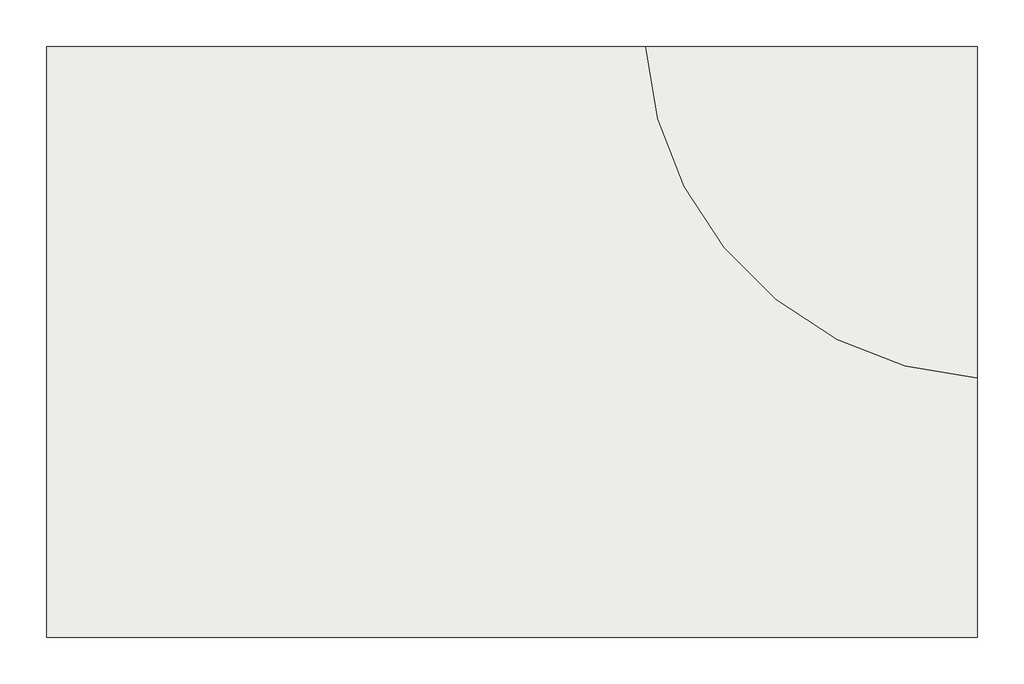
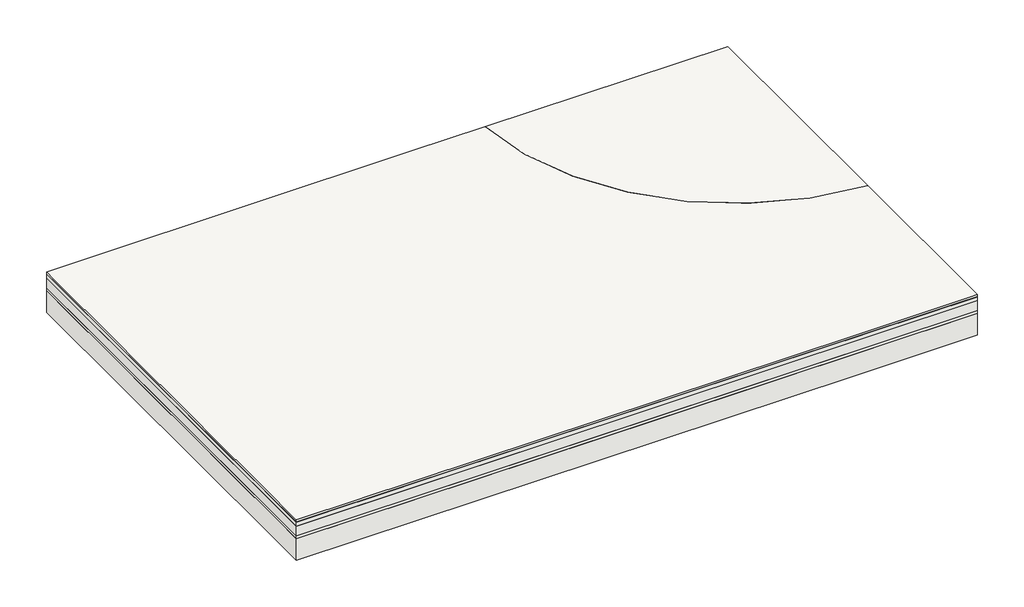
# One storey: 1 slab.
"""IFC4 building model written with IfcOpenShell, lengths in millimetres."""

from ifc_helpers import new_model, si_unit, point, frame, frame_2d, origin, place, context, project, spatial, polyline, circle_curve, trimmed, segment, composite_curve, outline, extrude, faceted_brep, element, save
from ifc_brep_helpers import plane_surface, revolved_surface, advanced_brep

model = new_model("IFC4")

# Units and contexts
model_context = context("Model", 3, world=origin())
ifc_project = project(units=[si_unit("LENGTHUNIT", "METRE", prefix="MILLI")], contexts=[model_context])

# Site, building, storey
site = spatial("IfcSite", under=ifc_project)
building = spatial("IfcBuilding", under=site)
storey = spatial("IfcBuildingStorey", under=building, Name="Этаж 2", Elevation=3000.0)

# Slab
placement = place(None, origin())
element("IfcSlab", 1, ObjectType="Пол по ж/б стяжке на бетонной плите 414мм (Изоляция ЭКОВЕР СТЭП ОПТИМА 100мм)", at=placement, inside=storey, context=model_context, shape_type="SolidModel", body=[
    extrude(outline(composite_curve([segment(polyline([(41114.7709945, 3961.7721519), (43457.721519, 3961.7721519), (43457.721519, 1618.8216274)]), True, "CONTINUOUS"), segment(trimmed(circle_curve(frame_2d((43610.121519, 4114.1721519)), 2500.0), [point((43457.721519, 1618.8216274))], [point((41114.7709945, 3961.7721519))], False, "CARTESIAN"), True, "CONTINUOUS")], self_intersect=False)), frame((0.0, 0.0, 2980.0), z_axis=(0.0, 0.0, 1.0), x_axis=(1.0, 0.0, 0.0)), (0.0, 0.0, 1.0), 20.0),
    advanced_brep(
    [(43457.721519, 1618.8216274, 2980.0), (41114.7709945, 3961.7721519, 2980.0), (41114.7709945, 3961.7721519, 3000.0), (43457.721519, 1618.8216274, 3000.0), (36877.721519, 3961.7721519, 2980.0), (40397.721519, 3961.7721519, 2980.0), (43457.721519, -218.2278481, 2980.0), (40397.721519, -218.2278481, 2980.0), (36877.721519, -218.2278481, 2980.0), (36877.721519, 3961.7721519, 3000.0), (36877.721519, 161.7721519, 3000.0), (36877.721519, -218.2278481, 3000.0), (40397.721519, -218.2278481, 3000.0), (42267.721519, -218.2278481, 3000.0), (43457.721519, -218.2278481, 3000.0), (40397.721519, 3961.7721519, 3000.0), (37257.721519, 3961.7721519, 3000.0)],
    [
        (0, 1, circle_curve(frame((43610.121519, 4114.1721519, 2980.0), z_axis=(0.0, 0.0, -1.0), x_axis=(0.0, -1.0, 0.0)), 2500.0)),
        (1, 2),
        (2, 3, circle_curve(frame((43610.121519, 4114.1721519, 3000.0), z_axis=(0.0, 0.0, 1.0), x_axis=(0.0, -1.0, 0.0)), 2500.0)),
        (3, 0),
        (4, 5),
        (5, 1),
        (0, 6),
        (6, 7),
        (7, 8),
        (8, 4),
        (9, 10),
        (10, 11),
        (11, 12),
        (12, 13),
        (13, 14),
        (14, 3),
        (2, 15),
        (15, 16),
        (16, 9),
        (4, 9),
        (14, 6),
        (11, 8),
    ],
    [
        revolved_surface(polyline([(43610.121519, 1614.1721519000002, 3000.0), (43610.121519, 1614.1721519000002, 2980.0)]), (43610.121519, 4114.1721519, 3304.8), (0.0, 0.0, 1.0)),
        plane_surface(frame((36877.721519, 3961.7721519, 2980.0), z_axis=(0.0, 0.0, -1.0), x_axis=(-1.0, 0.0, 0.0))),
        plane_surface(frame((36877.721519, 3961.7721519, 3000.0), z_axis=(0.0, 0.0, 1.0), x_axis=(-1.0, 0.0, 0.0))),
        plane_surface(frame((40397.721519, 3961.7721519, 2586.0), z_axis=(0.0, 1.0, 0.0), x_axis=(0.0, 0.0, 1.0))),
        plane_surface(frame((43457.721519, 3961.7721519, 2586.0), z_axis=(1.0, 0.0, 0.0), x_axis=(0.0, 0.0, 1.0))),
        plane_surface(frame((40397.721519, -218.2278481, 2586.0), z_axis=(0.0, -1.0, 0.0), x_axis=(0.0, 0.0, 1.0))),
        plane_surface(frame((36877.721519, -218.2278481, 2586.0), z_axis=(-1.0, 0.0, 0.0), x_axis=(0.0, 0.0, 1.0))),
    ],
    [
        (0, [[1, 2, 3, 4]]),
        (1, [[5, 6, -1, 7, 8, 9, 10]]),
        (2, [[11, 12, 13, 14, 15, 16, -3, 17, 18, 19]]),
        (3, [[-5, 20, -19, -18, -17, -2, -6]]),
        (4, [[21, -7, -4, -16]]),
        (5, [[-8, -21, -15, -14, -13, 22, -9]]),
        (6, [[-10, -22, -12, -11, -20]]),
    ],
),
    extrude(outline(composite_curve([segment(polyline([(41615.9364122, 3961.7721519), (43457.721519, 3961.7721519), (43457.721519, 2119.9870451)]), True, "CONTINUOUS"), segment(trimmed(circle_curve(frame_2d((43610.121519, 4114.1721519)), 2000.0), [point((43457.721519, 2119.9870451))], [point((41615.9364122, 3961.7721519))], False, "CARTESIAN"), True, "CONTINUOUS")], self_intersect=False)), frame((0.0, 0.0, 2936.0), z_axis=(0.0, 0.0, 1.0), x_axis=(1.0, 0.0, 0.0)), (0.0, 0.0, 1.0), 40.0),
    advanced_brep(
    [(43457.721519, 2119.9870451, 2936.0), (41615.9364122, 3961.7721519, 2936.0), (41615.9364122, 3961.7721519, 2976.0), (43457.721519, 2119.9870451, 2976.0), (36877.721519, 3961.7721519, 2936.0), (40397.721519, 3961.7721519, 2936.0), (43457.721519, -218.2278481, 2936.0), (40397.721519, -218.2278481, 2936.0), (36877.721519, -218.2278481, 2936.0), (36877.721519, 3961.7721519, 2976.0), (40397.721519, 3961.7721519, 2976.0), (43457.721519, -218.2278481, 2976.0), (40397.721519, -218.2278481, 2976.0), (36877.721519, -218.2278481, 2976.0)],
    [
        (0, 1, circle_curve(frame((43610.121519, 4114.1721519, 2936.0), z_axis=(0.0, 0.0, -1.0), x_axis=(0.0, -1.0, 0.0)), 2000.0)),
        (1, 2),
        (2, 3, circle_curve(frame((43610.121519, 4114.1721519, 2976.0), z_axis=(0.0, 0.0, 1.0), x_axis=(0.0, -1.0, 0.0)), 2000.0)),
        (3, 0),
        (4, 5),
        (5, 1),
        (0, 6),
        (6, 7),
        (7, 8),
        (8, 4),
        (4, 9),
        (9, 10),
        (10, 2),
        (11, 6),
        (3, 11),
        (11, 12),
        (12, 13),
        (13, 8),
        (13, 9),
    ],
    [
        revolved_surface(polyline([(43610.121519, 2114.1721519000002, 2976.0), (43610.121519, 2114.1721519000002, 2936.0)]), (43610.121519, 4114.1721519, 3280.8), (0.0, 0.0, 1.0)),
        plane_surface(frame((36877.721519, 3961.7721519, 2936.0), z_axis=(0.0, 0.0, -1.0), x_axis=(-1.0, 0.0, 0.0))),
        plane_surface(frame((40397.721519, 3961.7721519, 2586.0), z_axis=(0.0, 1.0, 0.0), x_axis=(0.0, 0.0, 1.0))),
        plane_surface(frame((43457.721519, 3961.7721519, 2586.0), z_axis=(1.0, 0.0, 0.0), x_axis=(0.0, 0.0, 1.0))),
        plane_surface(frame((40397.721519, -218.2278481, 2586.0), z_axis=(0.0, -1.0, 0.0), x_axis=(0.0, 0.0, 1.0))),
        plane_surface(frame((36877.721519, -218.2278481, 2586.0), z_axis=(-1.0, 0.0, 0.0), x_axis=(0.0, 0.0, 1.0))),
        plane_surface(frame((36877.721519, 3961.7721519, 2976.0), z_axis=(0.0, 0.0, 1.0), x_axis=(-1.0, 0.0, 0.0))),
    ],
    [
        (0, [[1, 2, 3, 4]]),
        (1, [[5, 6, -1, 7, 8, 9, 10]]),
        (2, [[-5, 11, 12, 13, -2, -6]]),
        (3, [[14, -7, -4, 15]]),
        (4, [[-8, -14, 16, 17, 18, -9]]),
        (5, [[-10, -18, 19, -11]]),
        (6, [[-12, -19, -17, -16, -15, -3, -13]]),
    ],
),
    faceted_brep([(43457.721519, 3961.7721519, 2586.0), (40397.721519, 3961.7721519, 2586.0), (37257.721519, 3961.7721519, 2586.0), (36877.721519, 3961.7721519, 2586.0), (36877.721519, 3961.7721519, 2806.0), (40397.721519, 3961.7721519, 2806.0), (43457.721519, 3961.7721519, 2806.0), (43457.721519, -218.2278481, 2586.0), (43457.721519, -218.2278481, 2806.0), (36877.721519, -218.2278481, 2586.0), (40397.721519, -218.2278481, 2586.0), (42267.721519, -218.2278481, 2586.0), (40397.721519, -218.2278481, 2806.0), (36877.721519, -218.2278481, 2806.0), (36877.721519, 161.7721519, 2586.0)], [[[0, 1, 2, 3, 4, 5, 6]], [[7, 0, 6, 8]], [[9, 10, 11, 7, 8, 12, 13]], [[14, 9, 13, 4, 3]], [[5, 4, 13, 12, 8, 6]], [[3, 2, 1, 0, 7, 11, 10, 9, 14]]]),
    extrude(outline(composite_curve([segment(polyline([(41816.5847226, 3961.7721519), (43457.721519, 3961.7721519), (43457.721519, 2320.6353555)]), True, "CONTINUOUS"), segment(trimmed(circle_curve(frame_2d((43610.121519, 4114.1721519)), 1800.0), [point((43457.721519, 2320.6353555))], [point((41816.5847226, 3961.7721519))], False, "CARTESIAN"), True, "CONTINUOUS")], self_intersect=False)), frame((0.0, 0.0, 2836.0), z_axis=(0.0, 0.0, 1.0), x_axis=(1.0, 0.0, 0.0)), (0.0, 0.0, 1.0), 100.0),
    advanced_brep(
    [(43457.721519, 2320.6353555, 2836.0), (41816.5847226, 3961.7721519, 2836.0), (41816.5847226, 3961.7721519, 2936.0), (43457.721519, 2320.6353555, 2936.0), (36877.721519, 3961.7721519, 2836.0), (40397.721519, 3961.7721519, 2836.0), (43457.721519, -218.2278481, 2836.0), (40397.721519, -218.2278481, 2836.0), (36877.721519, -218.2278481, 2836.0), (36877.721519, 3961.7721519, 2936.0), (40397.721519, 3961.7721519, 2936.0), (43457.721519, -218.2278481, 2936.0), (40397.721519, -218.2278481, 2936.0), (36877.721519, -218.2278481, 2936.0)],
    [
        (0, 1, circle_curve(frame((43610.121519, 4114.1721519, 2836.0), z_axis=(0.0, 0.0, -1.0), x_axis=(0.0, -1.0, 0.0)), 1800.0)),
        (1, 2),
        (2, 3, circle_curve(frame((43610.121519, 4114.1721519, 2936.0), z_axis=(0.0, 0.0, 1.0), x_axis=(0.0, -1.0, 0.0)), 1800.0)),
        (3, 0),
        (4, 5),
        (5, 1),
        (0, 6),
        (6, 7),
        (7, 8),
        (8, 4),
        (4, 9),
        (9, 10),
        (10, 2),
        (11, 6),
        (3, 11),
        (11, 12),
        (12, 13),
        (13, 8),
        (13, 9),
    ],
    [
        revolved_surface(polyline([(43610.121519, 2314.1721519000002, 2936.0), (43610.121519, 2314.1721519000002, 2836.0)]), (43610.121519, 4114.1721519, 3240.8), (0.0, 0.0, 1.0)),
        plane_surface(frame((36877.721519, 3961.7721519, 2836.0), z_axis=(0.0, 0.0, -1.0), x_axis=(-1.0, 0.0, 0.0))),
        plane_surface(frame((40397.721519, 3961.7721519, 2586.0), z_axis=(0.0, 1.0, 0.0), x_axis=(0.0, 0.0, 1.0))),
        plane_surface(frame((43457.721519, 3961.7721519, 2586.0), z_axis=(1.0, 0.0, 0.0), x_axis=(0.0, 0.0, 1.0))),
        plane_surface(frame((40397.721519, -218.2278481, 2586.0), z_axis=(0.0, -1.0, 0.0), x_axis=(0.0, 0.0, 1.0))),
        plane_surface(frame((36877.721519, -218.2278481, 2586.0), z_axis=(-1.0, 0.0, 0.0), x_axis=(0.0, 0.0, 1.0))),
        plane_surface(frame((36877.721519, 3961.7721519, 2936.0), z_axis=(0.0, 0.0, 1.0), x_axis=(-1.0, 0.0, 0.0))),
    ],
    [
        (0, [[1, 2, 3, 4]]),
        (1, [[5, 6, -1, 7, 8, 9, 10]]),
        (2, [[-5, 11, 12, 13, -2, -6]]),
        (3, [[14, -7, -4, 15]]),
        (4, [[-8, -14, 16, 17, 18, -9]]),
        (5, [[-10, -18, 19, -11]]),
        (6, [[-12, -19, -17, -16, -15, -3, -13]]),
    ],
),
    extrude(outline(composite_curve([segment(polyline([(42276.4004087, 3961.7721519), (43457.721519, 3961.7721519), (43457.721519, 2780.4510416)]), True, "CONTINUOUS"), segment(trimmed(circle_curve(frame_2d((43610.121519, 4114.1721519)), 1342.4), [point((43457.721519, 2780.4510416))], [point((42276.4004087, 3961.7721519))], False, "CARTESIAN"), True, "CONTINUOUS")], self_intersect=False)), frame((0.0, 0.0, 2806.0), z_axis=(0.0, 0.0, 1.0), x_axis=(1.0, 0.0, 0.0)), (0.0, 0.0, 1.0), 30.0),
    advanced_brep(
    [(43457.721519, 2780.4510416, 2806.0), (42276.4004087, 3961.7721519, 2806.0), (42276.4004087, 3961.7721519, 2836.0), (43457.721519, 2780.4510416, 2836.0), (36877.721519, 3961.7721519, 2806.0), (40397.721519, 3961.7721519, 2806.0), (43457.721519, -218.2278481, 2806.0), (40397.721519, -218.2278481, 2806.0), (36877.721519, -218.2278481, 2806.0), (36877.721519, 3961.7721519, 2836.0), (40397.721519, 3961.7721519, 2836.0), (43457.721519, -218.2278481, 2836.0), (40397.721519, -218.2278481, 2836.0), (36877.721519, -218.2278481, 2836.0)],
    [
        (0, 1, circle_curve(frame((43610.121519, 4114.1721519, 2806.0), z_axis=(0.0, 0.0, -1.0), x_axis=(0.0, -1.0, 0.0)), 1342.4)),
        (1, 2),
        (2, 3, circle_curve(frame((43610.121519, 4114.1721519, 2836.0), z_axis=(0.0, 0.0, 1.0), x_axis=(0.0, -1.0, 0.0)), 1342.4)),
        (3, 0),
        (4, 5),
        (5, 1),
        (0, 6),
        (6, 7),
        (7, 8),
        (8, 4),
        (4, 9),
        (9, 10),
        (10, 2),
        (11, 6),
        (3, 11),
        (11, 12),
        (12, 13),
        (13, 8),
        (13, 9),
    ],
    [
        revolved_surface(polyline([(43610.121519, 2771.7721519, 2836.0), (43610.121519, 2771.7721519, 2806.0)]), (43610.121519, 4114.1721519, 3140.8), (0.0, 0.0, 1.0)),
        plane_surface(frame((36877.721519, 3961.7721519, 2806.0), z_axis=(0.0, 0.0, -1.0), x_axis=(-1.0, 0.0, 0.0))),
        plane_surface(frame((40397.721519, 3961.7721519, 2586.0), z_axis=(0.0, 1.0, 0.0), x_axis=(0.0, 0.0, 1.0))),
        plane_surface(frame((43457.721519, 3961.7721519, 2586.0), z_axis=(1.0, 0.0, 0.0), x_axis=(0.0, 0.0, 1.0))),
        plane_surface(frame((40397.721519, -218.2278481, 2586.0), z_axis=(0.0, -1.0, 0.0), x_axis=(0.0, 0.0, 1.0))),
        plane_surface(frame((36877.721519, -218.2278481, 2586.0), z_axis=(-1.0, 0.0, 0.0), x_axis=(0.0, 0.0, 1.0))),
        plane_surface(frame((36877.721519, 3961.7721519, 2836.0), z_axis=(0.0, 0.0, 1.0), x_axis=(-1.0, 0.0, 0.0))),
    ],
    [
        (0, [[1, 2, 3, 4]]),
        (1, [[5, 6, -1, 7, 8, 9, 10]]),
        (2, [[-5, 11, 12, 13, -2, -6]]),
        (3, [[14, -7, -4, 15]]),
        (4, [[-8, -14, 16, 17, 18, -9]]),
        (5, [[-10, -18, 19, -11]]),
        (6, [[-12, -19, -17, -16, -15, -3, -13]]),
    ],
),
    extrude(outline(composite_curve([segment(polyline([(41214.9651066, 3961.7721519), (43457.721519, 3961.7721519), (43457.721519, 1719.0157395)]), True, "CONTINUOUS"), segment(trimmed(circle_curve(frame_2d((43610.121519, 4114.1721519)), 2400.0), [point((43457.721519, 1719.0157395))], [point((41214.9651066, 3961.7721519))], False, "CARTESIAN"), True, "CONTINUOUS")], self_intersect=False)), frame((0.0, 0.0, 2976.0), z_axis=(0.0, 0.0, 1.0), x_axis=(1.0, 0.0, 0.0)), (0.0, 0.0, 1.0), 4.0),
    advanced_brep(
    [(43457.721519, 1719.0157395, 2976.0), (41214.9651066, 3961.7721519, 2976.0), (41214.9651066, 3961.7721519, 2980.0), (43457.721519, 1719.0157395, 2980.0), (36877.721519, 3961.7721519, 2976.0), (40397.721519, 3961.7721519, 2976.0), (43457.721519, -218.2278481, 2976.0), (40397.721519, -218.2278481, 2976.0), (36877.721519, -218.2278481, 2976.0), (36877.721519, 3961.7721519, 2980.0), (40397.721519, 3961.7721519, 2980.0), (43457.721519, -218.2278481, 2980.0), (40397.721519, -218.2278481, 2980.0), (36877.721519, -218.2278481, 2980.0)],
    [
        (0, 1, circle_curve(frame((43610.121519, 4114.1721519, 2976.0), z_axis=(0.0, 0.0, -1.0), x_axis=(0.0, -1.0, 0.0)), 2400.0)),
        (1, 2),
        (2, 3, circle_curve(frame((43610.121519, 4114.1721519, 2980.0), z_axis=(0.0, 0.0, 1.0), x_axis=(0.0, -1.0, 0.0)), 2400.0)),
        (3, 0),
        (4, 5),
        (5, 1),
        (0, 6),
        (6, 7),
        (7, 8),
        (8, 4),
        (4, 9),
        (9, 10),
        (10, 2),
        (11, 6),
        (3, 11),
        (11, 12),
        (12, 13),
        (13, 8),
        (13, 9),
    ],
    [
        revolved_surface(polyline([(43610.121519, 1714.1721519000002, 2980.0), (43610.121519, 1714.1721519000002, 2976.0)]), (43610.121519, 4114.1721519, 3284.8), (0.0, 0.0, 1.0)),
        plane_surface(frame((36877.721519, 3961.7721519, 2976.0), z_axis=(0.0, 0.0, -1.0), x_axis=(-1.0, 0.0, 0.0))),
        plane_surface(frame((40397.721519, 3961.7721519, 2586.0), z_axis=(0.0, 1.0, 0.0), x_axis=(0.0, 0.0, 1.0))),
        plane_surface(frame((43457.721519, 3961.7721519, 2586.0), z_axis=(1.0, 0.0, 0.0), x_axis=(0.0, 0.0, 1.0))),
        plane_surface(frame((40397.721519, -218.2278481, 2586.0), z_axis=(0.0, -1.0, 0.0), x_axis=(0.0, 0.0, 1.0))),
        plane_surface(frame((36877.721519, -218.2278481, 2586.0), z_axis=(-1.0, 0.0, 0.0), x_axis=(0.0, 0.0, 1.0))),
        plane_surface(frame((36877.721519, 3961.7721519, 2980.0), z_axis=(0.0, 0.0, 1.0), x_axis=(-1.0, 0.0, 0.0))),
    ],
    [
        (0, [[1, 2, 3, 4]]),
        (1, [[5, 6, -1, 7, 8, 9, 10]]),
        (2, [[-5, 11, 12, 13, -2, -6]]),
        (3, [[14, -7, -4, 15]]),
        (4, [[-8, -14, 16, 17, 18, -9]]),
        (5, [[-10, -18, 19, -11]]),
        (6, [[-12, -19, -17, -16, -15, -3, -13]]),
    ],
),
])

save(model, "model.ifc")
